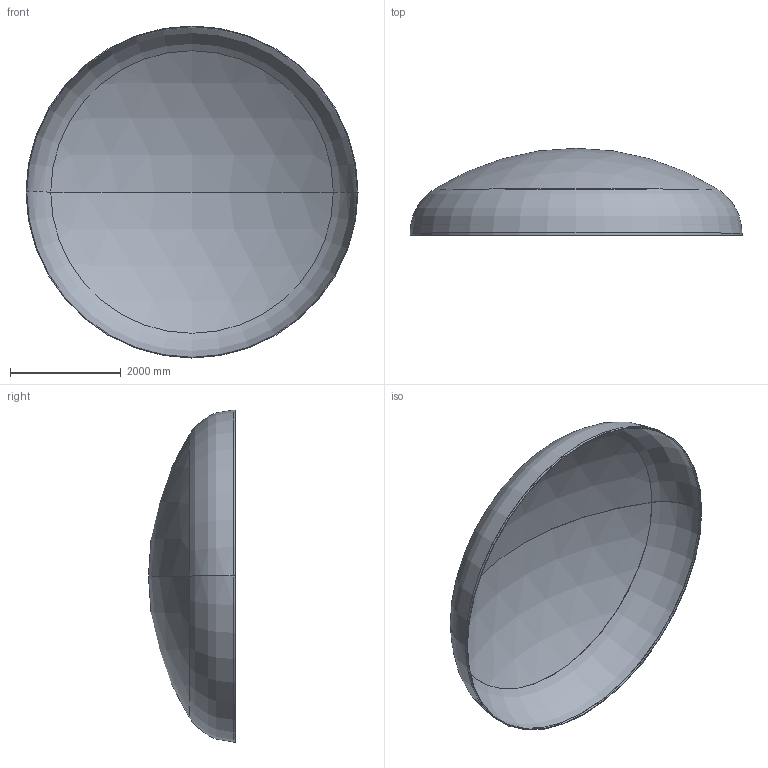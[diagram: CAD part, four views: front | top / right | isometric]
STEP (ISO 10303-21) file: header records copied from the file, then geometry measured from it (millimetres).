
FILE_DESCRIPTION (( 'STEP AP203' ), '1' );
FILE_NAME ('DIN 28013 Korbbogenform_-_Boden DIN 28013 - 6000 x 40 - I - s=13.step', '2016-07-04T10:35:47', ( '' ), ( '' ), 'SwSTEP 2.0', 'SolidWorks 2013', '' );
FILE_SCHEMA (( 'CONFIG_CONTROL_DESIGN' ));
Length unit declared in the file: millimetre
Products named in the file (1): DIN 28013 Korbbogenform_-_Boden DIN 28013 - 6000 x 40 - I - s=13
Bounding box: 6000 x 1572.18 x 6000 mm (x, y, z)
Volume: 517549632.1 mm3; surface area: 79867854.8 mm2
Topology: 1 solids, 1 shells, 13 faces, 24 edges, 14 vertices
Faces by surface type: torus 4, cylinder 4, sphere 4, plane 1
Entity records: 407 total; most frequent: DIRECTION 72, CARTESIAN_POINT 52, ORIENTED_EDGE 48, AXIS2_PLACEMENT_3D 34, EDGE_CURVE 24, CIRCLE 20, VERTEX_POINT 14, EDGE_LOOP 14
